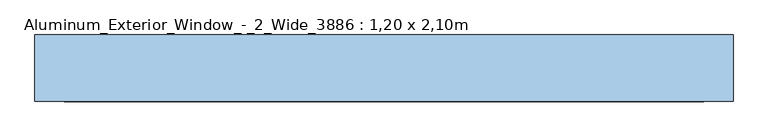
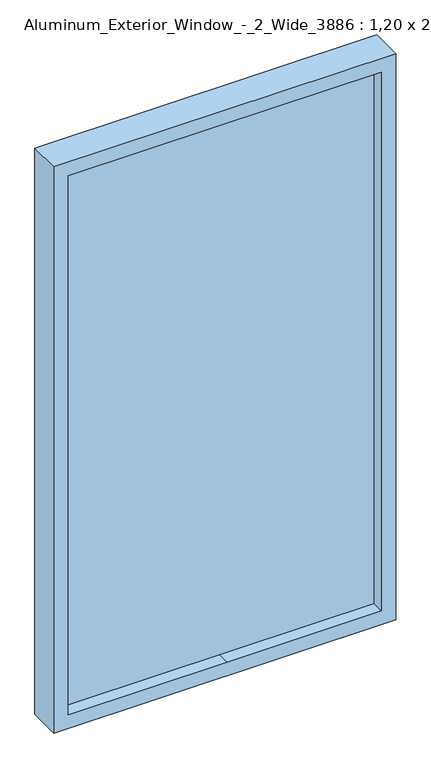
"""IFC4 building model written with IfcOpenShell, lengths in millimetres: window geometry, Aluminum_Exterior_Window_-_2_Wide_3886 : 1,20 x 2,10m."""

from ifc_helpers import new_model, si_unit, frame, origin, place, context, project, spatial, polyline, outline, extrude, source, transform, mapped, element, save


def aluminum_exterior_window_2_wide_3886_1_20_x_2_10m_6cf60a3e(model_context):
    return source(origin(), model_context, "Body", "SweptSolid", [
        extrude(outline(polyline([(3116.0, -1371.6), (1016.0, -1371.6), (1016.0, -171.6), (3116.0, -171.6), (3116.0, -1371.6)]), holes=[polyline([(3065.2, -797.0), (3065.2, -222.4), (1066.8, -222.4), (1066.8, -763.8808837), (1066.8, -1320.8), (3065.2, -1320.8), (3065.2, -797.0)])]), frame((0.0, -38.1424754, 0.0), z_axis=(0.0, 1.0, 0.0), x_axis=(0.0, 0.0, 1.0)), (0.0, 0.0, 1.0), 114.3),
        extrude(outline(polyline([(3065.2, -797.0), (3065.2, -1320.8), (1066.8, -1320.8), (1066.8, -770.891469), (1066.8, -222.4), (3065.2, -222.4), (3065.2, -797.0)])), frame((0.0, 6.3075246, 0.0), z_axis=(0.0, 1.0, 0.0), x_axis=(0.0, 0.0, 1.0)), (0.0, 0.0, 1.0), 25.4),
    ])


if __name__ == "__main__":
    model = new_model("IFC4")
    model_context = context("Model", 3, world=origin())
    ifc_project = project(units=[si_unit("LENGTHUNIT", "METRE", prefix="MILLI")], contexts=[model_context])
    site = spatial("IfcSite", under=ifc_project)
    building = spatial("IfcBuilding", under=site)
    placement = place(None, origin())
    aluminum_exterior_window_2_wide_3886_1_20_x_2_10m_shape = aluminum_exterior_window_2_wide_3886_1_20_x_2_10m_6cf60a3e(model_context)
    element("IfcWindow", 1, ObjectType="Aluminum_Exterior_Window_-_2_Wide_3886 : 1,20 x 2,10m", at=placement, inside=building, context=model_context, shape_type="MappedRepresentation", body=[
        mapped(aluminum_exterior_window_2_wide_3886_1_20_x_2_10m_shape, transform((0.0, 0.0, 0.0), x_axis=(1.0, 0.0, 0.0), y_axis=(0.0, 1.0, 0.0), z_axis=(0.0, 0.0, 1.0))),
    ])
    save(model, "model.ifc")
